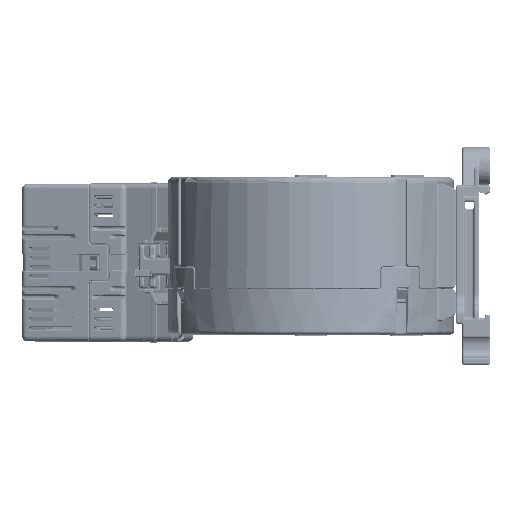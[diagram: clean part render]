
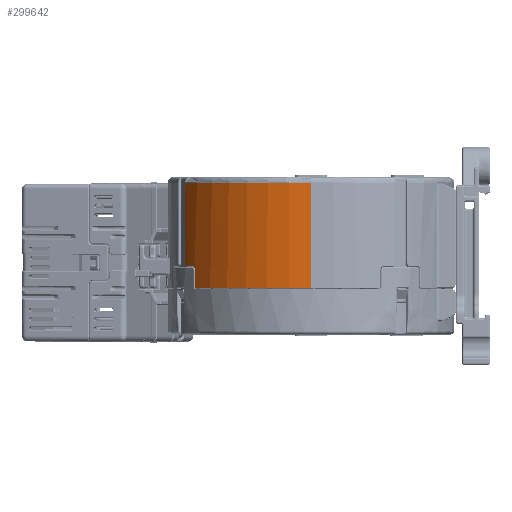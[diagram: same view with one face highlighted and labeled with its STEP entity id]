
A CAD part, left-side view. The second image highlights one B-rep face of the part: STEP entity #299642.
In plain terms, the highlighted cylindrical face has radius 39.75 mm (diameter 79.5 mm), a partial arc.
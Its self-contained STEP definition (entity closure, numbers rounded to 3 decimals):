
#337 = CARTESIAN_POINT ( 'NONE',  ( 0., 0., -1.5 ) ) ;
#553 = ORIENTED_EDGE ( 'NONE', *, *, #252988, .T. ) ;
#10491 = DIRECTION ( 'NONE',  ( 1., 0., 0. ) ) ;
#10813 = CARTESIAN_POINT ( 'NONE',  ( -22.998, 32.422, -24.802 ) ) ;
#20023 = VERTEX_POINT ( 'NONE', #114795 ) ;
#41971 = EDGE_CURVE ( 'NONE', #508174, #20023, #372197, .T. ) ;
#44080 = CARTESIAN_POINT ( 'NONE',  ( -19.617, 34.572, -24.531 ) ) ;
#56206 = CARTESIAN_POINT ( 'NONE',  ( -23.407, 32.127, -30.4 ) ) ;
#62002 = CARTESIAN_POINT ( 'NONE',  ( -22.636, 32.675, -24.582 ) ) ;
#78015 = CARTESIAN_POINT ( 'NONE',  ( 0., 0., -30.65 ) ) ;
#88748 = EDGE_CURVE ( 'NONE', #201825, #95430, #349761, .T. ) ;
#90502 = CARTESIAN_POINT ( 'NONE',  ( -22.364, 32.862, -24.55 ) ) ;
#91518 = ORIENTED_EDGE ( 'NONE', *, *, #306708, .T. ) ;
#94218 = AXIS2_PLACEMENT_3D ( 'NONE', #508939, #426477, #308286 ) ;
#95430 = VERTEX_POINT ( 'NONE', #340475 ) ;
#98108 = CARTESIAN_POINT ( 'NONE',  ( -23.379, 32.148, -25.468 ) ) ;
#114795 = CARTESIAN_POINT ( 'NONE',  ( -19.788, 34.474, -24.55 ) ) ;
#126341 = CARTESIAN_POINT ( 'NONE',  ( -19.788, 34.474, -24.55 ) ) ;
#132323 = VERTEX_POINT ( 'NONE', #418562 ) ;
#140054 = EDGE_CURVE ( 'NONE', #479321, #95430, #436465, .T. ) ;
#141697 = CARTESIAN_POINT ( 'NONE',  ( -39.75, 0., -1.5 ) ) ;
#153947 = CARTESIAN_POINT ( 'NONE',  ( -23.614, 31.976, -30.65 ) ) ;
#155818 = LINE ( 'NONE', #477335, #449281 ) ;
#160450 = CIRCLE ( 'NONE', #456047, 39.75 ) ;
#165992 = DIRECTION ( 'NONE',  ( 0., 0., -1. ) ) ;
#167669 = CARTESIAN_POINT ( 'NONE',  ( -23.407, 32.127, 0. ) ) ;
#199199 = FACE_OUTER_BOUND ( 'NONE', #306303, .T. ) ;
#201825 = VERTEX_POINT ( 'NONE', #141697 ) ;
#203105 = B_SPLINE_CURVE_WITH_KNOTS ( 'NONE', 3,
 ( #56206, #406189, #205457, #480867, #208027, #213062 ),
 .UNSPECIFIED., .F., .F.,
 ( 4, 2, 4 ),
 ( 0., 0., 0. ),
 .UNSPECIFIED. ) ;
#205457 = CARTESIAN_POINT ( 'NONE',  ( -23.43, 32.11, -30.532 ) ) ;
#207352 = VECTOR ( 'NONE', #437900, 1000. ) ;
#208027 = CARTESIAN_POINT ( 'NONE',  ( -23.56, 32.016, -30.65 ) ) ;
#209523 = CIRCLE ( 'NONE', #94218, 39.75 ) ;
#211361 = CARTESIAN_POINT ( 'NONE',  ( -22.502, 32.768, -24.55 ) ) ;
#211453 = EDGE_CURVE ( 'NONE', #20023, #132323, #209523, .T. ) ;
#213062 = CARTESIAN_POINT ( 'NONE',  ( -23.614, 31.976, -30.65 ) ) ;
#225171 = EDGE_CURVE ( 'NONE', #132323, #340028, #287229, .T. ) ;
#234884 = DIRECTION ( 'NONE',  ( 1., 0., 0. ) ) ;
#236962 = CARTESIAN_POINT ( 'NONE',  ( -19.458, 34.662, -24.456 ) ) ;
#247178 = VECTOR ( 'NONE', #462911, 1000. ) ;
#252988 = EDGE_CURVE ( 'NONE', #201825, #305929, #160450, .T. ) ;
#255372 = AXIS2_PLACEMENT_3D ( 'NONE', #78015, #358558, #234884 ) ;
#275834 = EDGE_CURVE ( 'NONE', #358217, #479321, #203105, .T. ) ;
#276316 = DIRECTION ( 'NONE',  ( 0., 0., -1. ) ) ;
#280247 = ORIENTED_EDGE ( 'NONE', *, *, #41971, .T. ) ;
#280891 = LINE ( 'NONE', #167669, #207352 ) ;
#287229 = B_SPLINE_CURVE_WITH_KNOTS ( 'NONE', 3,
 ( #90502, #211361, #62002, #489313, #363396, #10813, #291145, #329897, #486799, #98108, #412038, #368478 ),
 .UNSPECIFIED., .F., .F.,
 ( 4, 2, 2, 2, 2, 4 ),
 ( 0., 0., 0.001, 0.001, 0.001, 0.002 ),
 .UNSPECIFIED. ) ;
#291145 = CARTESIAN_POINT ( 'NONE',  ( -23.052, 32.383, -24.854 ) ) ;
#299642 = ADVANCED_FACE ( 'NONE', ( #199199 ), #353745, .T. ) ;
#305929 = VERTEX_POINT ( 'NONE', #438021 ) ;
#306043 = CARTESIAN_POINT ( 'NONE',  ( -39.75, 0., 0. ) ) ;
#306303 = EDGE_LOOP ( 'NONE', ( #430023, #553, #91518, #280247, #414846, #355858, #378612, #343582, #459741 ) ) ;
#306708 = EDGE_CURVE ( 'NONE', #305929, #508174, #155818, .T. ) ;
#307498 = CARTESIAN_POINT ( 'NONE',  ( 0., 0., 0. ) ) ;
#308286 = DIRECTION ( 'NONE',  ( -1., 0., 0. ) ) ;
#319418 = DIRECTION ( 'NONE',  ( 0., 0., -1. ) ) ;
#321980 = CARTESIAN_POINT ( 'NONE',  ( -19.129, 34.845, -23.999 ) ) ;
#329897 = CARTESIAN_POINT ( 'NONE',  ( -23.196, 32.28, -25.026 ) ) ;
#340028 = VERTEX_POINT ( 'NONE', #401324 ) ;
#340475 = CARTESIAN_POINT ( 'NONE',  ( -39.75, 0., -30.65 ) ) ;
#343582 = ORIENTED_EDGE ( 'NONE', *, *, #275834, .T. ) ;
#349761 = LINE ( 'NONE', #306043, #247178 ) ;
#353745 = CYLINDRICAL_SURFACE ( 'NONE', #403883, 39.75 ) ;
#355858 = ORIENTED_EDGE ( 'NONE', *, *, #225171, .T. ) ;
#358040 = CARTESIAN_POINT ( 'NONE',  ( -19.702, 34.524, -24.55 ) ) ;
#358217 = VERTEX_POINT ( 'NONE', #360981 ) ;
#358558 = DIRECTION ( 'NONE',  ( 0., 0., 1. ) ) ;
#360981 = CARTESIAN_POINT ( 'NONE',  ( -23.407, 32.127, -30.4 ) ) ;
#363396 = CARTESIAN_POINT ( 'NONE',  ( -22.885, 32.501, -24.712 ) ) ;
#368478 = CARTESIAN_POINT ( 'NONE',  ( -23.407, 32.127, -25.8 ) ) ;
#372197 = B_SPLINE_CURVE_WITH_KNOTS ( 'NONE', 3,
 ( #481372, #321980, #394073, #432478, #236962, #44080, #358040, #126341 ),
 .UNSPECIFIED., .F., .F.,
 ( 4, 2, 2, 4 ),
 ( 0., 0.001, 0.001, 0.001 ),
 .UNSPECIFIED. ) ;
#378612 = ORIENTED_EDGE ( 'NONE', *, *, #476323, .T. ) ;
#394073 = CARTESIAN_POINT ( 'NONE',  ( -19.202, 34.805, -24.194 ) ) ;
#401324 = CARTESIAN_POINT ( 'NONE',  ( -23.407, 32.127, -25.8 ) ) ;
#403883 = AXIS2_PLACEMENT_3D ( 'NONE', #307498, #276316, #425697 ) ;
#406189 = CARTESIAN_POINT ( 'NONE',  ( -23.407, 32.127, -30.467 ) ) ;
#412038 = CARTESIAN_POINT ( 'NONE',  ( -23.407, 32.127, -25.633 ) ) ;
#414846 = ORIENTED_EDGE ( 'NONE', *, *, #211453, .T. ) ;
#418562 = CARTESIAN_POINT ( 'NONE',  ( -22.364, 32.862, -24.55 ) ) ;
#425697 = DIRECTION ( 'NONE',  ( -1., 0., 0. ) ) ;
#426477 = DIRECTION ( 'NONE',  ( 0., 0., 1. ) ) ;
#430023 = ORIENTED_EDGE ( 'NONE', *, *, #88748, .F. ) ;
#432478 = CARTESIAN_POINT ( 'NONE',  ( -19.385, 34.703, -24.401 ) ) ;
#436465 = CIRCLE ( 'NONE', #255372, 39.75 ) ;
#437900 = DIRECTION ( 'NONE',  ( 0., 0., -1. ) ) ;
#438021 = CARTESIAN_POINT ( 'NONE',  ( -19.129, 34.845, -1.5 ) ) ;
#449281 = VECTOR ( 'NONE', #165992, 1000. ) ;
#456047 = AXIS2_PLACEMENT_3D ( 'NONE', #337, #319418, #10491 ) ;
#459741 = ORIENTED_EDGE ( 'NONE', *, *, #140054, .T. ) ;
#462911 = DIRECTION ( 'NONE',  ( 0., 0., -1. ) ) ;
#471808 = CARTESIAN_POINT ( 'NONE',  ( -19.129, 34.845, -23.8 ) ) ;
#476323 = EDGE_CURVE ( 'NONE', #340028, #358217, #280891, .T. ) ;
#477335 = CARTESIAN_POINT ( 'NONE',  ( -19.129, 34.845, 0. ) ) ;
#479321 = VERTEX_POINT ( 'NONE', #153947 ) ;
#480867 = CARTESIAN_POINT ( 'NONE',  ( -23.507, 32.054, -30.624 ) ) ;
#481372 = CARTESIAN_POINT ( 'NONE',  ( -19.129, 34.845, -23.8 ) ) ;
#486799 = CARTESIAN_POINT ( 'NONE',  ( -23.274, 32.224, -25.165 ) ) ;
#489313 = CARTESIAN_POINT ( 'NONE',  ( -22.825, 32.543, -24.675 ) ) ;
#508174 = VERTEX_POINT ( 'NONE', #471808 ) ;
#508939 = CARTESIAN_POINT ( 'NONE',  ( 0., 0., -24.55 ) ) ;
